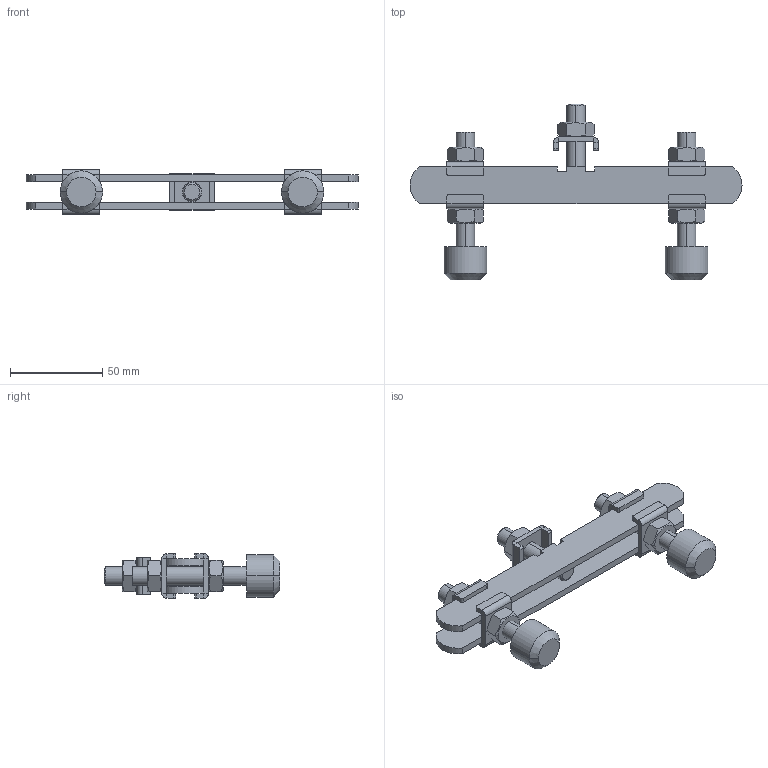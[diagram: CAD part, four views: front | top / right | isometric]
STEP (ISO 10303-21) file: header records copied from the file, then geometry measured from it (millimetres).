
FILE_DESCRIPTION (( 'STEP AP203' ), '1' );
FILE_NAME ('PBD-M10.STEP', '2011-09-15T14:38:13', ( 'Usuario' ), ( '' ), 'SwSTEP 2.0', 'SolidWorks 2011', '' );
FILE_SCHEMA (( 'CONFIG_CONTROL_DESIGN' ));
Length unit declared in the file: millimetre
Products named in the file (7): 20.20011; 10.20003; 14.10003; PBD-M10; 20.10003; 20.20015; 11.50003
Assembly tree (17 placements, depth 2):
  PBD-M10
    20.20011  x2
    20.10003  x2
    11.50003  x5
    14.10003  x5
    20.20015  x2
    10.20003
Bounding box: 180 x 95.35 x 24.3 mm (x, y, z)
Volume: 69033.4 mm3; surface area: 40554.1 mm2
Topology: 17 solids, 17 shells, 304 faces, 690 edges, 418 vertices
Faces by surface type: plane 164, cylinder 80, cone 60
Entity records: 3566 total; most frequent: CARTESIAN_POINT 539, DIRECTION 461, ORIENTED_EDGE 382, EDGE_CURVE 191, AXIS2_PLACEMENT_3D 175, VERTEX_POINT 117, LINE 111, VECTOR 111
